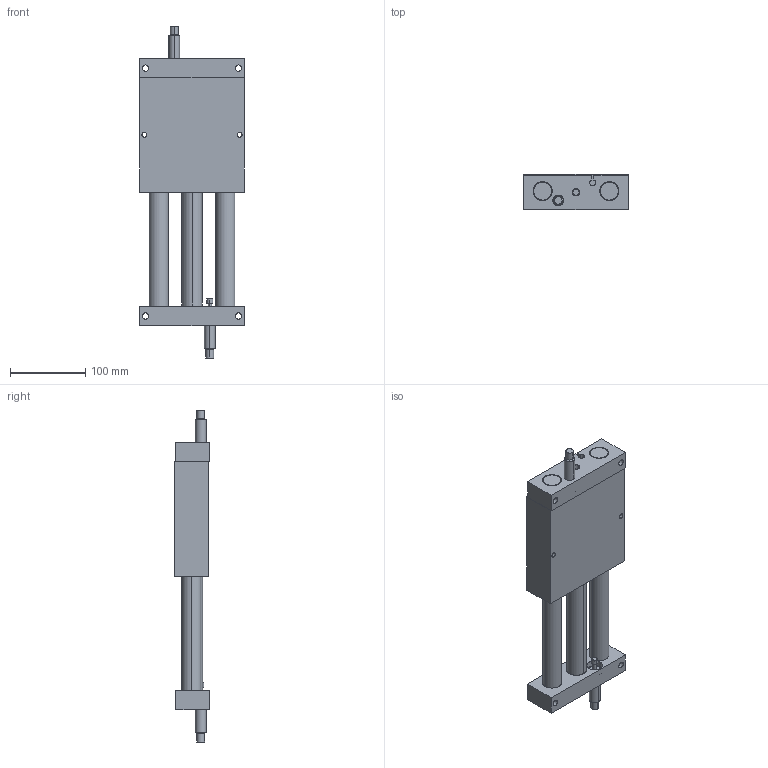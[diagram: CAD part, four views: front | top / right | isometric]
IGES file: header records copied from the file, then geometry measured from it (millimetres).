
Start section: SolidWorks IGES file using analytic representation for surfaces
Global section: file name: C:\Users\jmkuhnes\Pictures\My Transfers\AGSL\AGSL-6\AGSL-6 with SHOCKS in IN.IGS; native system: SolidWorks 2013; preprocessor: SolidWorks 2013; author: jmkuhnes; date: 141107.110532; units: inch
Bounding box: 139.7 x 46.05 x 442.19 mm (x, y, z)
Surface area: 264395 mm2 (no closed solid volume)
Topology: 0 solids, 0 shells, 198 faces, 5024 edges, 5020 vertices
Faces by surface type: revolution 138, bspline 60
